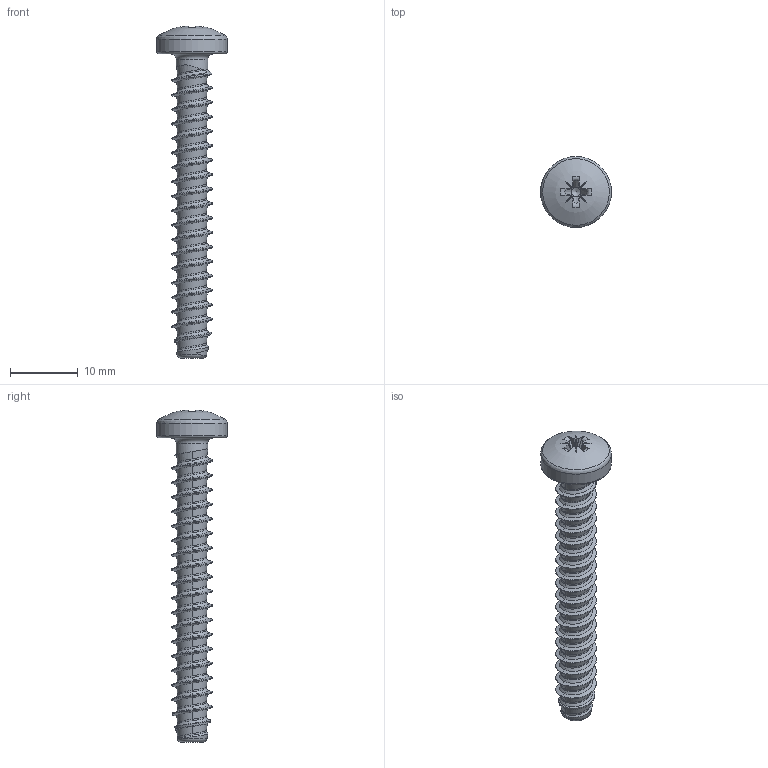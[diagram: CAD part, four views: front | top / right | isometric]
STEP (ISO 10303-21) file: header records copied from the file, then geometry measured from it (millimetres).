
FILE_DESCRIPTION(/* description */ (''),/* implementation_level */ '2;1');
FILE_NAME(/* name */ 'KN6032-STSplus-60x45-Z3.step',/* time_stamp */ '2017-10-10T16:27:12+02:00',/* author */ (''),/* organization */ (''),/* preprocessor_version */ 'ST-DEVELOPER v16',/* originating_system */ 'SIEMENS PLM Software NX 10.0',/* authorisation */ '');
FILE_SCHEMA (('AUTOMOTIVE_DESIGN { 1 0 10303 214 3 1 1 1 }'));
Length unit declared in the file: millimetre
Products named in the file (1): KN6032-STSplus-60x45-Z3
Bounding box: 10.5 x 10.5 x 49.14 mm (x, y, z)
Volume: 1051.4 mm3; surface area: 1264.1 mm2
Topology: 1 solids, 1 shells, 173 faces, 407 edges, 236 vertices
Faces by surface type: bspline 104, plane 42, cylinder 11, torus 8, cone 7, sphere 1
Full cylindrical faces by diameter (mm): 4.68 x1, 10.5 x1
Entity records: 10481 total; most frequent: CARTESIAN_POINT 7245, ORIENTED_EDGE 786, DIRECTION 410, EDGE_CURVE 393, VERTEX_POINT 231, EDGE_LOOP 181, B_SPLINE_CURVE_WITH_KNOTS 178, ADVANCED_FACE 173
